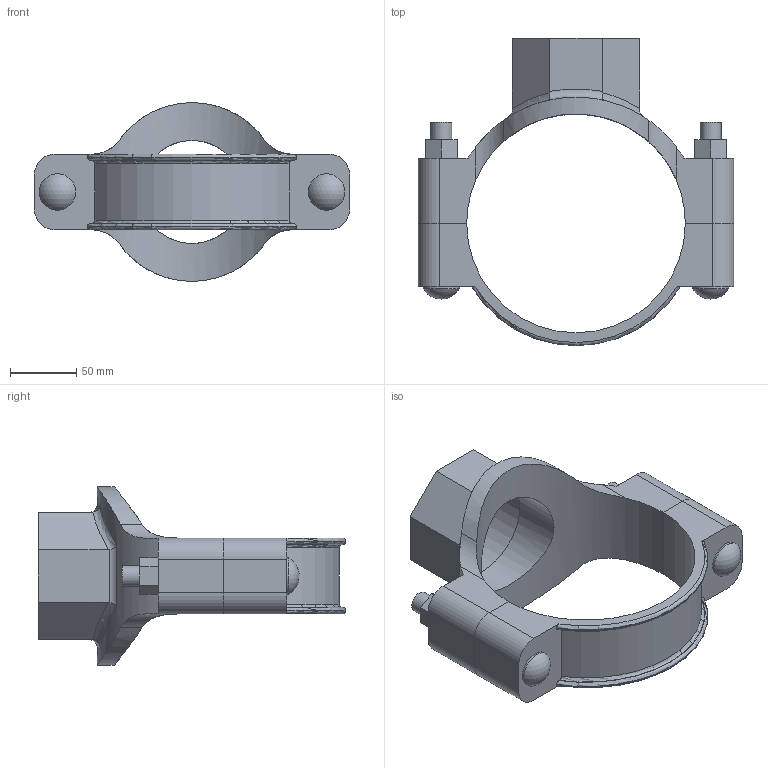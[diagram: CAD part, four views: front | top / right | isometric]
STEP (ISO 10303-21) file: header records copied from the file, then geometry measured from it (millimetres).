
FILE_DESCRIPTION(/* description */ (''),/* implementation_level */ '2;1');
FILE_NAME(/* name */ 'P:\Inventor CPS India\2018\920N\STEP\Mechanical-T_Style_920N_Threaded_[3D]\OUTLET_06.0x03.0 (165.1x80)_920N (THD).stp',/* time_stamp */ '2018-07-13T15:15:14+06:00',/* author */ ('Vjadhav'),/* organization */ (''),/* preprocessor_version */ 'ST-DEVELOPER v15.6',/* originating_system */ 'Autodesk Inventor 2015',/* authorisation */ '');
FILE_SCHEMA (('AUTOMOTIVE_DESIGN { 1 0 10303 214 3 1 1 }'));
Length unit declared in the file: inch
Products named in the file (3): 920N LOWER HSG-13; 920NT-HSG-47; 920NT
Bounding box: 238.25 x 231.9 x 134.83 mm (x, y, z)
Volume: 755667.9 mm3; surface area: 165249.6 mm2
Topology: 2 solids, 2 shells, 110 faces, 286 edges, 192 vertices
Faces by surface type: plane 58, cylinder 38, torus 8, bspline 4, sphere 2
Full cylindrical faces by diameter (mm): 15.875 x4, 27.496 x2, 77.787 x1, 88.9 x1
Entity records: 3970 total; most frequent: CARTESIAN_POINT 1138, ORIENTED_EDGE 548, DIRECTION 536, EDGE_CURVE 274, AXIS2_PLACEMENT_3D 192, VERTEX_POINT 188, LINE 152, VECTOR 152
